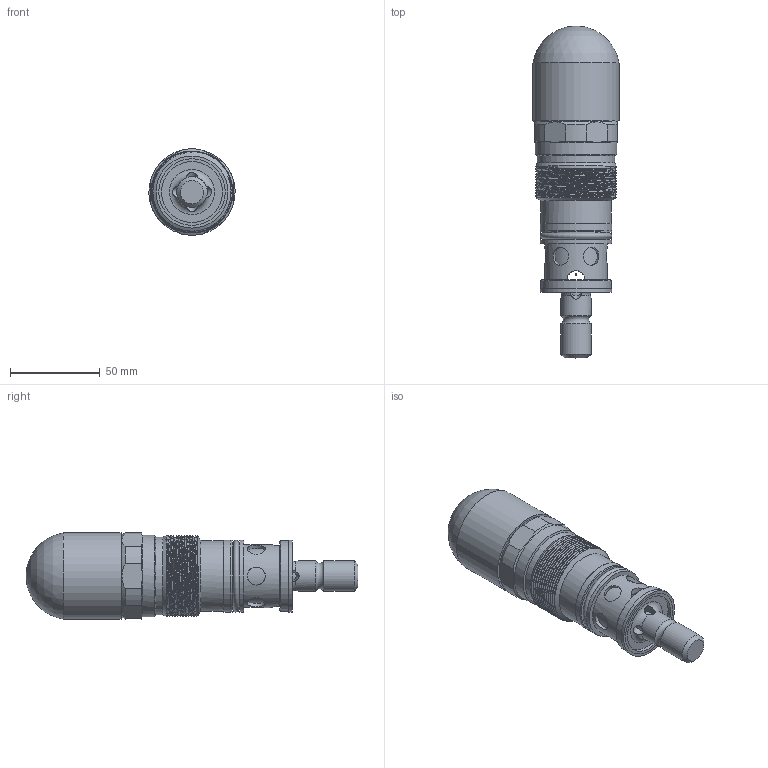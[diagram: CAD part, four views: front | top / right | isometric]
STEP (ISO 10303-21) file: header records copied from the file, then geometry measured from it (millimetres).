
FILE_DESCRIPTION(/* description */ (''),/* implementation_level */ '2;1');
FILE_NAME(/* name */ 'DBDS20K-1XJ插入式直动型溢流阀.prt.stp',/* time_stamp */ '2022-03-30T20:14:47+08:00',/* author */ (''),/* organization */ (''),/* preprocessor_version */ 'ST-DEVELOPER v16.7',/* originating_system */ 'SIEMENS PLM Software NX 12.0',/* authorisation */ '');
FILE_SCHEMA (('AUTOMOTIVE_DESIGN { 1 0 10303 214 3 1 1 1 }'));
Length unit declared in the file: millimetre
Products named in the file (1): DBDS20K-1XJ插入式直动型溢流阀
Bounding box: 47.93 x 184.53 x 47.96 mm (x, y, z)
Volume: 184242.7 mm3; surface area: 49303.9 mm2
Topology: 11 solids, 12 shells, 395 faces, 942 edges, 581 vertices
Faces by surface type: plane 221, cylinder 82, cone 52, torus 32, bspline 6, sphere 2
Full cylindrical faces by diameter (mm): 1 x1, 3.1 x2, 6 x5, 9.7 x1, 10 x6, 10.2 x1, 10.976 x1, 17 x2, 19.7 x1, 20 x1, 28 x1, 28.5 x1, 30 x1, 31 x1, 33.8 x1, 35 x1, 35.2 x1, 35.3 x1, 36 x1, 37 x2, 38 x1, 39 x1, 39.4 x1, 40 x4, 42.9 x1, 45.5 x1, 48 x1
Entity records: 20087 total; most frequent: CARTESIAN_POINT 11792, ORIENTED_EDGE 1664, DIRECTION 1587, EDGE_CURVE 832, AXIS2_PLACEMENT_3D 658, VERTEX_POINT 548, EDGE_LOOP 490, ADVANCED_FACE 395
